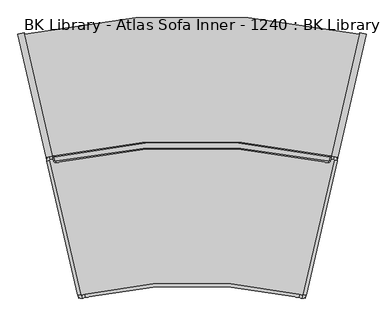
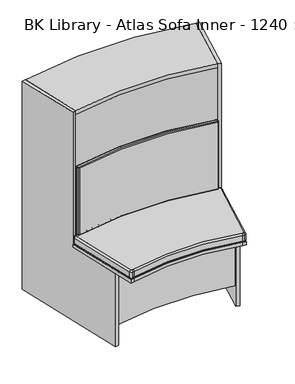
"""IFC4 building model written with IfcOpenShell, lengths in millimetres: furniture geometry, BK Library - Atlas Sofa Inner - 1240 : BK Library - Atlas Sofa Inner - 1240."""

from ifc_helpers import new_model, si_unit, point, frame, frame_2d, origin, place, context, project, spatial, polyline, circle_curve, ellipse_curve, trimmed, segment, composite_curve, outline, extrude, source, transform, mapped, element, save
from ifc_brep_helpers import plane_surface, cylinder_surface, revolved_surface, advanced_brep


def bk_library_atlas_sofa_inner_1240_bk_library_atlas_sofa_inner_c92ac835(model_context):
    return source(origin(), model_context, "Body", "SolidModel", [
        advanced_brep(
        [(-387.5289282, -41.0616278, 912.6999998), (-386.337373, -41.8193482, 912.6999998), (386.322412, -41.8102681, 912.6999998), (387.5138106, -41.053138, 912.6999998), (389.7114211, -31.2769641, 912.6999998), (388.9577264, -30.0825885, 912.6999998), (-388.967965, -30.0849192, 912.6999998), (-389.7217875, -31.2786982, 912.6999998), (-386.337373, -41.8193482, 512.6999998), (-387.5289282, -41.0616278, 512.6999998), (-389.7217875, -31.2786982, 512.6999998), (-388.967965, -30.0849192, 512.6999998), (388.9577264, -30.0825885, 512.6999998), (389.7114211, -31.2769641, 512.6999998), (387.5138106, -41.053138, 512.6999998), (386.322412, -41.8102681, 512.6999998), (-391.4320751, -41.9365244, 908.6999998), (-393.6249345, -32.1535948, 908.6999998), (-393.6249345, -32.1535948, 516.6999998), (-391.4320751, -41.9365244, 516.6999998), (-385.4742994, -45.7251264, 908.6999998), (-385.4742994, -45.7251264, 516.6999998), (385.4594302, -45.7160667, 908.6999998), (385.4594302, -45.7160667, 516.6999998), (391.416423, -41.9304159, 908.6999998), (391.416423, -41.9304159, 516.6999998), (393.6140335, -32.1542421, 908.6999998), (393.6140335, -32.1542421, 516.6999998), (-389.8558218, -26.1846999, 908.6999998), (389.8455598, -26.1823639, 908.6999998), (389.8455598, -26.1823639, 516.6999998), (-389.8558218, -26.1846999, 516.6999998)],
        [
            (0, 1, circle_curve(frame((-386.5531414, -40.8429036, 912.6999998), z_axis=(0.0, 0.0, 1.0), x_axis=(-0.9757867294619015, -0.21872416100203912, 0.0)), 1.0)),
            (1, 2, circle_curve(frame((0.0130662, -1790.2207372, 912.6999998), z_axis=(0.0, 0.0, -1.0), x_axis=(-0.21576840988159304, 0.9764445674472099, 0.0)), 1790.579258)),
            (2, 3, circle_curve(frame((386.5381575, -40.8338185, 912.6999998), z_axis=(0.0, 0.0, 1.0), x_axis=(-0.21574546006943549, -0.9764496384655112, 0.0)), 1.0)),
            (3, 4),
            (4, 5, circle_curve(frame((388.735768, -31.0576446, 912.6999998), z_axis=(0.0, 0.0, 1.0), x_axis=(0.9756530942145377, -0.21931949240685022, 0.0)), 1.0)),
            (5, 6, circle_curve(frame((0.0, -1738.7617261, 912.6999998), z_axis=(0.0, 0.0, 1.0), x_axis=(0.2219583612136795, 0.9750561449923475, 0.0)), 1752.3905125)),
            (6, 7, circle_curve(frame((-388.7460008, -31.059974, 912.6999998), z_axis=(0.0, 0.0, 1.0), x_axis=(-0.22196420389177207, 0.9750548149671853, 0.0)), 1.0)),
            (7, 0),
            (8, 9, circle_curve(frame((-386.5531414, -40.8429036, 512.6999998), z_axis=(0.0, 0.0, -1.0), x_axis=(-0.9757867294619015, -0.21872416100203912, 0.0)), 1.0)),
            (9, 10),
            (10, 11, circle_curve(frame((-388.7460008, -31.059974, 512.6999998), z_axis=(0.0, 0.0, -1.0), x_axis=(-0.22196420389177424, 0.9750548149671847, 0.0)), 1.0)),
            (11, 12, circle_curve(frame((0.0, -1738.7617261, 512.6999998), z_axis=(0.0, 0.0, -1.0), x_axis=(0.2219583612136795, 0.9750561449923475, 0.0)), 1752.3905125)),
            (12, 13, circle_curve(frame((388.735768, -31.0576446, 512.6999998), z_axis=(0.0, 0.0, -1.0), x_axis=(0.9756530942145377, -0.21931949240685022, 0.0)), 1.0)),
            (13, 14),
            (14, 15, circle_curve(frame((386.5381575, -40.8338185, 512.6999998), z_axis=(0.0, 0.0, -1.0), x_axis=(-0.21574546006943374, -0.9764496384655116, 0.0)), 1.0)),
            (15, 8, circle_curve(frame((0.0130662, -1790.2207372, 512.6999998), z_axis=(0.0, 0.0, 1.0), x_axis=(-0.21576840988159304, 0.9764445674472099, 0.0)), 1790.579258)),
            (16, 17),
            (17, 18),
            (18, 19),
            (19, 16),
            (20, 16, circle_curve(frame((-386.5531414, -40.8429036, 908.6999998), z_axis=(0.0, 0.0, -1.0), x_axis=(1.0, 0.0, 0.0)), 5.0)),
            (19, 21, circle_curve(frame((-386.5531414, -40.8429036, 516.6999998), z_axis=(0.0, 0.0, 1.0), x_axis=(1.0, 0.0, 0.0)), 5.0)),
            (21, 20),
            (22, 20, circle_curve(frame((0.0130662, -1790.2207372, 908.6999998), z_axis=(0.0, 0.0, 1.0), x_axis=(1.0, 0.0, 0.0)), 1786.579258)),
            (21, 23, circle_curve(frame((0.0130662, -1790.2207372, 516.6999998), z_axis=(0.0, 0.0, -1.0), x_axis=(1.0, 0.0, 0.0)), 1786.579258)),
            (23, 22),
            (24, 22, circle_curve(frame((386.5381575, -40.8338185, 908.6999998), z_axis=(0.0, 0.0, -1.0), x_axis=(1.0, 0.0, 0.0)), 5.0)),
            (23, 25, circle_curve(frame((386.5381575, -40.8338185, 516.6999998), z_axis=(0.0, 0.0, 1.0), x_axis=(1.0, 0.0, 0.0)), 5.0)),
            (25, 24),
            (26, 24),
            (25, 27),
            (27, 26),
            (28, 29, circle_curve(frame((0.0, -1738.7617261, 908.6999998), z_axis=(0.0, 0.0, -1.0), x_axis=(1.0, 0.0, 0.0)), 1756.3905125)),
            (29, 30),
            (30, 31, circle_curve(frame((0.0, -1738.7617261, 516.6999998), z_axis=(0.0, 0.0, 1.0), x_axis=(1.0, 0.0, 0.0)), 1756.3905125)),
            (31, 28),
            (17, 28, circle_curve(frame((-388.7460008, -31.059974, 908.6999998), z_axis=(0.0, 0.0, -1.0), x_axis=(1.0, 0.0, 0.0)), 5.0)),
            (31, 18, circle_curve(frame((-388.7460008, -31.059974, 516.6999998), z_axis=(0.0, 0.0, 1.0), x_axis=(1.0, 0.0, 0.0)), 5.0)),
            (29, 26, circle_curve(frame((388.735768, -31.0576446, 908.6999998), z_axis=(0.0, 0.0, -1.0), x_axis=(1.0, 0.0, 0.0)), 5.0)),
            (27, 30, circle_curve(frame((388.735768, -31.0576446, 516.6999998), z_axis=(0.0, 0.0, 1.0), x_axis=(1.0, 0.0, 0.0)), 5.0)),
            (20, 1, circle_curve(frame((-386.337373, -41.8193482, 908.6999998), z_axis=(-0.9764445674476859, -0.21576840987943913, 0.0), x_axis=(-0.21576840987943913, 0.9764445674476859, 0.0)), 4.0)),
            (0, 16, circle_curve(frame((-387.5289282, -41.0616278, 908.6999998), z_axis=(0.21872416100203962, -0.9757867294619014, 0.0), x_axis=(0.9757867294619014, 0.21872416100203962, 0.0)), 4.0)),
            (22, 2, circle_curve(frame((386.322412, -41.8102681, 908.6999998), z_axis=(-0.9764496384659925, 0.21574546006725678, 0.0), x_axis=(0.21574546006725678, 0.9764496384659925, 0.0)), 4.0)),
            (24, 3, circle_curve(frame((387.5138106, -41.053138, 908.6999998), z_axis=(-0.21931949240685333, -0.975653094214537, 0.0), x_axis=(-0.975653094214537, 0.21931949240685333, 0.0)), 4.0)),
            (26, 4, circle_curve(frame((389.7114211, -31.2769641, 908.6999998), z_axis=(-0.2193194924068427, -0.9756530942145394, 0.0), x_axis=(-0.9756530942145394, 0.2193194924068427, 0.0)), 4.0)),
            (29, 5, circle_curve(frame((388.9577264, -30.0825885, 908.6999998), z_axis=(0.9750561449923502, -0.2219583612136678, 0.0), x_axis=(-0.2219583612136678, -0.9750561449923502, 0.0)), 4.0)),
            (28, 6, circle_curve(frame((-388.967965, -30.0849192, 908.6999998), z_axis=(0.9750548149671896, 0.22196420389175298, 0.0), x_axis=(0.22196420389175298, -0.9750548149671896, 0.0)), 4.0)),
            (17, 7, circle_curve(frame((-389.7217875, -31.2786982, 908.6999998), z_axis=(-0.2187241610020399, 0.9757867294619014, 0.0), x_axis=(0.9757867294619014, 0.2187241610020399, 0.0)), 4.0)),
            (8, 21, circle_curve(frame((-386.337373, -41.8193482, 516.6999998), z_axis=(-0.9764445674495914, -0.21576840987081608, 0.0), x_axis=(-0.21576840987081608, 0.9764445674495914, 0.0)), 4.0)),
            (19, 9, circle_curve(frame((-387.5289282, -41.0616278, 516.6999998), z_axis=(0.21872416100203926, -0.9757867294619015, 0.0), x_axis=(0.9757867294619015, 0.21872416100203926, 0.0)), 4.0)),
            (15, 23, circle_curve(frame((386.322412, -41.8102681, 516.6999998), z_axis=(-0.9764496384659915, 0.2157454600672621, 0.0), x_axis=(0.2157454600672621, 0.9764496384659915, 0.0)), 4.0)),
            (14, 25, circle_curve(frame((387.5138106, -41.053138, 516.6999998), z_axis=(-0.21931949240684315, -0.9756530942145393, 0.0), x_axis=(-0.9756530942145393, 0.21931949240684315, 0.0)), 4.0)),
            (13, 27, circle_curve(frame((389.7114211, -31.2769641, 516.6999998), z_axis=(-0.21931949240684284, -0.9756530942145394, 0.0), x_axis=(-0.9756530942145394, 0.21931949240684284, 0.0)), 4.0)),
            (12, 30, circle_curve(frame((388.9577264, -30.0825885, 516.6999998), z_axis=(0.9750561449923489, -0.22195836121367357, 0.0), x_axis=(-0.22195836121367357, -0.9750561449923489, 0.0)), 4.0)),
            (11, 31, circle_curve(frame((-388.967965, -30.0849192, 516.6999998), z_axis=(0.9750548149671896, 0.22196420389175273, 0.0), x_axis=(0.22196420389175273, -0.9750548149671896, 0.0)), 4.0)),
            (10, 18, circle_curve(frame((-389.7217875, -31.2786982, 516.6999998), z_axis=(-0.21872416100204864, 0.9757867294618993, 0.0), x_axis=(0.9757867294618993, 0.21872416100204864, 0.0)), 4.0)),
        ],
        [
            plane_surface(frame((-383.7460008, -31.059974, 912.6999998), z_axis=(0.0, 0.0, 1.0), x_axis=(0.0, 1.0, 0.0))),
            plane_surface(frame((-383.7460008, -31.059974, 512.6999998), z_axis=(0.0, 0.0, -1.0), x_axis=(0.0, -1.0, 0.0))),
            plane_surface(frame((-393.6249345, -32.1535948, 912.6999998), z_axis=(-0.9757867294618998, -0.21872416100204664, 0.0), x_axis=(0.0, 0.0, -1.0))),
            cylinder_surface(frame((-386.5531414, -40.8429036, 512.6999998), z_axis=(0.0, 0.0, 1.0), x_axis=(1.0, 0.0, 0.0)), 5.0),
            revolved_surface(polyline([(1786.5923242, -1790.2207372, 516.6999998), (1786.5923242, -1790.2207372, 908.6999998)]), (0.0130662, -1790.2207372, 512.6999998), (0.0, 0.0, -1.0)),
            cylinder_surface(frame((386.5381575, -40.8338185, 512.6999998), z_axis=(0.0, 0.0, 1.0), x_axis=(1.0, 0.0, 0.0)), 5.0),
            plane_surface(frame((391.416423, -41.9304159, 912.6999998), z_axis=(0.9756530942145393, -0.2193194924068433, 0.0), x_axis=(0.0, 0.0, -1.0))),
            cylinder_surface(frame((0.0, -1738.7617261, 512.6999998), z_axis=(0.0, 0.0, 1.0), x_axis=(1.0, 0.0, 0.0)), 1756.3905125),
            cylinder_surface(frame((-388.7460008, -31.059974, 512.6999998), z_axis=(0.0, 0.0, 1.0), x_axis=(1.0, 0.0, 0.0)), 5.0),
            cylinder_surface(frame((388.735768, -31.0576446, 512.6999998), z_axis=(0.0, 0.0, 1.0), x_axis=(1.0, 0.0, 0.0)), 5.0),
            revolved_surface(trimmed(ellipse_curve(frame((-387.5289282, -41.0616278, 908.6999998), z_axis=(-0.21872416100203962, 0.9757867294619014, 0.0), x_axis=(0.9757867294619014, 0.21872416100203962, 0.0)), 4.0, 4.0), [point((-391.4320751, -41.9365244, 908.6999998))], [point((-387.5289282, -41.0616278, 912.6999998))], True, "CARTESIAN"), (-386.5531414, -40.8429036, 0.0), (0.0, 0.0, 1.0)),
            revolved_surface(trimmed(ellipse_curve(frame((-386.337373, -41.8193482, 908.6999998), z_axis=(-0.9764445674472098, -0.21576840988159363, 0.0), x_axis=(-0.21576840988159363, 0.9764445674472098, 0.0)), 4.0, 4.0), [point((-385.4742994, -45.7251264, 908.6999998))], [point((-386.337373, -41.8193482, 912.6999998))], True, "CARTESIAN"), (0.0130662, -1790.2207372, 0.0), (0.0, 0.0, -1.0)),
            revolved_surface(trimmed(ellipse_curve(frame((386.322412, -41.8102681, 908.6999998), z_axis=(-0.9764496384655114, 0.2157454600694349, 0.0), x_axis=(0.2157454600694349, 0.9764496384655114, 0.0)), 4.0, 4.0), [point((385.4594302, -45.7160667, 908.6999998))], [point((386.322412, -41.8102681, 912.6999998))], True, "CARTESIAN"), (386.5381575, -40.8338185, 0.0), (0.0, 0.0, 1.0)),
            cylinder_surface(frame((387.5138106, -41.053138, 908.6999998), z_axis=(0.2193194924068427, 0.9756530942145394, 0.0), x_axis=(-0.9756530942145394, 0.2193194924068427, 0.0)), 4.0),
            revolved_surface(trimmed(ellipse_curve(frame((389.7114211, -31.2769641, 908.6999998), z_axis=(-0.21931949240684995, -0.9756530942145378, 0.0), x_axis=(-0.9756530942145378, 0.21931949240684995, 0.0)), 4.0, 4.0), [point((393.6140335, -32.1542421, 908.6999998))], [point((389.7114211, -31.2769641, 912.6999998))], True, "CARTESIAN"), (388.735768, -31.0576446, 0.0), (0.0, 0.0, 1.0)),
            revolved_surface(trimmed(ellipse_curve(frame((388.9577264, -30.0825885, 908.6999998), z_axis=(0.9750561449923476, -0.2219583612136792, 0.0), x_axis=(-0.2219583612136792, -0.9750561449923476, 0.0)), 4.0, 4.0), [point((389.8455598, -26.1823639, 908.6999998))], [point((388.9577264, -30.0825885, 912.6999998))], True, "CARTESIAN"), (0.0, -1738.7617261, 0.0), (0.0, 0.0, 1.0)),
            revolved_surface(trimmed(ellipse_curve(frame((-388.967965, -30.0849192, 908.6999998), z_axis=(0.9750548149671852, 0.22196420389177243, 0.0), x_axis=(0.22196420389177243, -0.9750548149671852, 0.0)), 4.0, 4.0), [point((-389.8558218, -26.1846999, 908.6999998))], [point((-388.967965, -30.0849192, 912.6999998))], True, "CARTESIAN"), (-388.7460008, -31.059974, 0.0), (0.0, 0.0, 1.0)),
            cylinder_surface(frame((-389.7217875, -31.2786982, 908.6999998), z_axis=(0.218724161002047, -0.9757867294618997, 0.0), x_axis=(0.9757867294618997, 0.218724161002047, 0.0)), 4.0),
            revolved_surface(trimmed(ellipse_curve(frame((-387.5289282, -41.0616278, 516.6999998), z_axis=(-0.21872416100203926, 0.9757867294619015, 0.0), x_axis=(0.9757867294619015, 0.21872416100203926, 0.0)), 4.0, 4.0), [point((-387.5289282, -41.0616278, 512.6999998))], [point((-391.4320751, -41.9365244, 516.6999998))], True, "CARTESIAN"), (-386.5531414, -40.8429036, 1425.3999996), (0.0, 0.0, 1.0)),
            revolved_surface(trimmed(ellipse_curve(frame((-386.337373, -41.8193482, 516.6999998), z_axis=(-0.9764445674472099, -0.2157684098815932, 0.0), x_axis=(-0.2157684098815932, 0.9764445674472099, 0.0)), 4.0, 4.0), [point((-386.337373, -41.8193482, 512.6999998))], [point((-385.4742994, -45.7251264, 516.6999998))], True, "CARTESIAN"), (0.0130662, -1790.2207372, 1425.3999996), (0.0, 0.0, -1.0)),
            revolved_surface(trimmed(ellipse_curve(frame((386.322412, -41.8102681, 516.6999998), z_axis=(-0.9764496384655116, 0.2157454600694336, 0.0), x_axis=(0.2157454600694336, 0.9764496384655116, 0.0)), 4.0, 4.0), [point((386.322412, -41.8102681, 512.6999998))], [point((385.4594302, -45.7160667, 516.6999998))], True, "CARTESIAN"), (386.5381575, -40.8338185, 1425.3999996), (0.0, 0.0, 1.0)),
            cylinder_surface(frame((387.5138106, -41.053138, 516.6999998), z_axis=(0.21931949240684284, 0.9756530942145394, 0.0), x_axis=(-0.9756530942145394, 0.21931949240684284, 0.0)), 4.0),
            revolved_surface(trimmed(ellipse_curve(frame((389.7114211, -31.2769641, 516.6999998), z_axis=(-0.2193194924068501, -0.9756530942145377, 0.0), x_axis=(-0.9756530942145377, 0.2193194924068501, 0.0)), 4.0, 4.0), [point((389.7114211, -31.2769641, 512.6999998))], [point((393.6140335, -32.1542421, 516.6999998))], True, "CARTESIAN"), (388.735768, -31.0576446, 1425.3999996), (0.0, 0.0, 1.0)),
            revolved_surface(trimmed(ellipse_curve(frame((388.9577264, -30.0825885, 516.6999998), z_axis=(0.9750561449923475, -0.22195836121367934, 0.0), x_axis=(-0.22195836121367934, -0.9750561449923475, 0.0)), 4.0, 4.0), [point((388.9577264, -30.0825885, 512.6999998))], [point((389.8455598, -26.1823639, 516.6999998))], True, "CARTESIAN"), (0.0, -1738.7617261, 1425.3999996), (0.0, 0.0, 1.0)),
            revolved_surface(trimmed(ellipse_curve(frame((-388.967965, -30.0849192, 516.6999998), z_axis=(0.9750548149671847, 0.22196420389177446, 0.0), x_axis=(0.22196420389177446, -0.9750548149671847, 0.0)), 4.0, 4.0), [point((-388.967965, -30.0849192, 512.6999998))], [point((-389.8558218, -26.1846999, 516.6999998))], True, "CARTESIAN"), (-388.7460008, -31.059974, 1425.3999996), (0.0, 0.0, 1.0)),
            cylinder_surface(frame((-389.7217875, -31.2786982, 516.6999998), z_axis=(0.2187241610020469, -0.9757867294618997, 0.0), x_axis=(0.9757867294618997, 0.2187241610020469, 0.0)), 4.0),
        ],
        [
            (0, [[1, 2, 3, 4, 5, 6, 7, 8]]),
            (1, [[9, 10, 11, 12, 13, 14, 15, 16]]),
            (2, [[17, 18, 19, 20]]),
            (3, [[21, -20, 22, 23]]),
            (4, [[24, -23, 25, 26]]),
            (5, [[27, -26, 28, 29]]),
            (6, [[30, -29, 31, 32]]),
            (7, [[33, 34, 35, 36]]),
            (8, [[37, -36, 38, -18]]),
            (9, [[39, -32, 40, -34]]),
            (10, [[41, -1, 42, -21]]),
            (11, [[-41, -24, 43, -2]]),
            (12, [[-43, -27, 44, -3]]),
            (13, [[-44, -30, 45, -4]]),
            (14, [[-45, -39, 46, -5]]),
            (15, [[-46, -33, 47, -6]]),
            (16, [[-47, -37, 48, -7]]),
            (17, [[-42, -8, -48, -17]]),
            (18, [[49, -22, 50, -9]]),
            (19, [[-49, -16, 51, -25]]),
            (20, [[-51, -15, 52, -28]]),
            (21, [[-52, -14, 53, -31]]),
            (22, [[-53, -13, 54, -40]]),
            (23, [[-54, -12, 55, -35]]),
            (24, [[-55, -11, 56, -38]]),
            (25, [[-50, -19, -56, -10]]),
        ],
    ),
        advanced_brep(
        [(-314.0881267, -421.1743563, 512.6999998), (-312.8890018, -421.9240893, 512.6999998), (-304.1191415, -419.9018257, 512.6999998), (304.1191415, -419.9018257, 512.6999998), (312.8890018, -421.9240893, 512.6999998), (314.0881267, -421.1743563, 512.6999998), (402.151177, -39.2752587, 512.6999998), (401.401444, -38.0761338, 512.6999998), (392.6315837, -36.0538702, 512.6999998), (-392.6315837, -36.0538702, 512.6999998), (-401.401444, -38.0761338, 512.6999998), (-402.151177, -39.2752587, 512.6999998), (-312.8890018, -421.9240893, 462.6999998), (-314.0881267, -421.1743563, 462.6999998), (-402.151177, -39.2752587, 462.6999998), (-401.401444, -38.0761338, 462.6999998), (-392.6315837, -36.0538702, 462.6999998), (392.6315837, -36.0538702, 462.6999998), (401.401444, -38.0761338, 462.6999998), (402.151177, -39.2752587, 462.6999998), (314.0881267, -421.1743563, 462.6999998), (312.8890018, -421.9240893, 462.6999998), (304.1191415, -419.9018257, 462.6999998), (-304.1191415, -419.9018257, 462.6999998), (-310.8667382, -430.6939496, 503.6999998), (-322.857987, -423.1966199, 503.6999998), (-322.857987, -423.1966199, 471.6999998), (-310.8667382, -430.6939496, 471.6999998), (-302.0968779, -428.671686, 503.6999998), (-302.0968779, -428.671686, 471.6999998), (302.0968779, -428.671686, 503.6999998), (302.0968779, -428.671686, 471.6999998), (310.8667382, -430.6939496, 503.6999998), (310.8667382, -430.6939496, 471.6999998), (322.857987, -423.1966199, 503.6999998), (322.857987, -423.1966199, 471.6999998), (410.9210373, -41.2975223, 503.6999998), (410.9210373, -41.2975223, 471.6999998), (403.4237077, -29.3062735, 503.6999998), (403.4237077, -29.3062735, 471.6999998), (394.6538473, -27.2840099, 503.6999998), (394.6538473, -27.2840099, 471.6999998), (-394.6538473, -27.2840099, 503.6999998), (-394.6538473, -27.2840099, 471.6999998), (-403.4237077, -29.3062735, 503.6999998), (-403.4237077, -29.3062735, 471.6999998), (-410.9210373, -41.2975223, 503.6999998), (-410.9210373, -41.2975223, 471.6999998)],
        [
            (0, 1, circle_curve(frame((-313.1136978, -420.9496603, 512.6999998), z_axis=(0.0, 0.0, 1.0), x_axis=(-0.9744289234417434, -0.22469595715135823, 0.0)), 1.0)),
            (1, 2),
            (2, 3, circle_curve(frame((0.0, -1738.7617261, 512.6999998), z_axis=(0.0, 0.0, -1.0), x_axis=(-0.22469595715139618, 0.9744289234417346, 0.0)), 1353.4695746)),
            (3, 4),
            (4, 5, circle_curve(frame((313.1136978, -420.9496603, 512.6999998), z_axis=(0.0, 0.0, 1.0), x_axis=(-0.22469595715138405, -0.9744289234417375, 0.0)), 1.0)),
            (5, 6),
            (6, 7, circle_curve(frame((401.1767481, -39.0505627, 512.6999998), z_axis=(0.0, 0.0, 1.0), x_axis=(0.9744289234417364, -0.22469595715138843, 0.0)), 1.0)),
            (7, 8),
            (8, 9, circle_curve(frame((0.0, -1738.7617261, 512.6999998), z_axis=(0.0, 0.0, 1.0), x_axis=(0.22469595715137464, 0.9744289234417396, 0.0)), 1747.3905125)),
            (9, 10),
            (10, 11, circle_curve(frame((-401.1767481, -39.0505627, 512.6999998), z_axis=(0.0, 0.0, 1.0), x_axis=(-0.22469595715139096, 0.9744289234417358, 0.0)), 1.0)),
            (11, 0),
            (12, 13, circle_curve(frame((-313.1136978, -420.9496603, 462.6999998), z_axis=(0.0, 0.0, -1.0), x_axis=(-0.9744289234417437, -0.22469595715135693, 0.0)), 1.0)),
            (13, 14),
            (14, 15, circle_curve(frame((-401.1767481, -39.0505627, 462.6999998), z_axis=(0.0, 0.0, -1.0), x_axis=(-0.22469595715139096, 0.9744289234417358, 0.0)), 1.0)),
            (15, 16),
            (16, 17, circle_curve(frame((0.0, -1738.7617261, 462.6999998), z_axis=(0.0, 0.0, -1.0), x_axis=(0.22469595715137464, 0.9744289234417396, 0.0)), 1747.3905125)),
            (17, 18),
            (18, 19, circle_curve(frame((401.1767481, -39.0505627, 462.6999998), z_axis=(0.0, 0.0, -1.0), x_axis=(0.9744289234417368, -0.2246959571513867, 0.0)), 1.0)),
            (19, 20),
            (20, 21, circle_curve(frame((313.1136978, -420.9496603, 462.6999998), z_axis=(0.0, 0.0, -1.0), x_axis=(-0.22469595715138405, -0.9744289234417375, 0.0)), 1.0)),
            (21, 22),
            (22, 23, circle_curve(frame((0.0, -1738.7617261, 462.6999998), z_axis=(0.0, 0.0, 1.0), x_axis=(-0.22469595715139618, 0.9744289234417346, 0.0)), 1353.4695746)),
            (23, 12),
            (24, 25, circle_curve(frame((-313.1136978, -420.9496603, 503.6999998), z_axis=(0.0, 0.0, -1.0), x_axis=(1.0, 0.0, 0.0)), 10.0)),
            (25, 26),
            (26, 27, circle_curve(frame((-313.1136978, -420.9496603, 471.6999998), z_axis=(0.0, 0.0, 1.0), x_axis=(1.0, 0.0, 0.0)), 10.0)),
            (27, 24),
            (28, 24),
            (27, 29),
            (29, 28),
            (30, 28, circle_curve(frame((0.0, -1738.7617261, 503.6999998), z_axis=(0.0, 0.0, 1.0), x_axis=(1.0, 0.0, 0.0)), 1344.4695746)),
            (29, 31, circle_curve(frame((0.0, -1738.7617261, 471.6999998), z_axis=(0.0, 0.0, -1.0), x_axis=(1.0, 0.0, 0.0)), 1344.4695746)),
            (31, 30),
            (32, 30),
            (31, 33),
            (33, 32),
            (34, 32, circle_curve(frame((313.1136978, -420.9496603, 503.6999998), z_axis=(0.0, 0.0, -1.0), x_axis=(1.0, 0.0, 0.0)), 10.0)),
            (33, 35, circle_curve(frame((313.1136978, -420.9496603, 471.6999998), z_axis=(0.0, 0.0, 1.0), x_axis=(1.0, 0.0, 0.0)), 10.0)),
            (35, 34),
            (36, 34),
            (35, 37),
            (37, 36),
            (38, 36, circle_curve(frame((401.1767481, -39.0505627, 503.6999998), z_axis=(0.0, 0.0, -1.0), x_axis=(1.0, 0.0, 0.0)), 10.0)),
            (37, 39, circle_curve(frame((401.1767481, -39.0505627, 471.6999998), z_axis=(0.0, 0.0, 1.0), x_axis=(1.0, 0.0, 0.0)), 10.0)),
            (39, 38),
            (40, 38),
            (39, 41),
            (41, 40),
            (42, 40, circle_curve(frame((0.0, -1738.7617261, 503.6999998), z_axis=(0.0, 0.0, -1.0), x_axis=(1.0, 0.0, 0.0)), 1756.3905125)),
            (41, 43, circle_curve(frame((0.0, -1738.7617261, 471.6999998), z_axis=(0.0, 0.0, 1.0), x_axis=(1.0, 0.0, 0.0)), 1756.3905125)),
            (43, 42),
            (44, 42),
            (43, 45),
            (45, 44),
            (46, 44, circle_curve(frame((-401.1767481, -39.0505627, 503.6999998), z_axis=(0.0, 0.0, -1.0), x_axis=(1.0, 0.0, 0.0)), 10.0)),
            (45, 47, circle_curve(frame((-401.1767481, -39.0505627, 471.6999998), z_axis=(0.0, 0.0, 1.0), x_axis=(1.0, 0.0, 0.0)), 10.0)),
            (47, 46),
            (25, 46),
            (47, 26),
            (24, 1, circle_curve(frame((-312.8890018, -421.9240893, 503.6999998), z_axis=(-0.9744289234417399, -0.22469595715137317, 0.0), x_axis=(-0.22469595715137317, 0.9744289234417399, 0.0)), 9.0)),
            (0, 25, circle_curve(frame((-314.0881267, -421.1743563, 503.6999998), z_axis=(0.2246959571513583, -0.9744289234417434, 0.0), x_axis=(0.9744289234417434, 0.2246959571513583, 0.0)), 9.0)),
            (28, 2, circle_curve(frame((-304.1191415, -419.9018257, 503.6999998), z_axis=(-0.9744289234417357, -0.22469595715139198, 0.0), x_axis=(-0.22469595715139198, 0.9744289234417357, 0.0)), 9.0)),
            (30, 3, circle_curve(frame((304.1191415, -419.9018257, 503.6999998), z_axis=(-0.9744289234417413, 0.2246959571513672, 0.0), x_axis=(0.2246959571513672, 0.9744289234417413, 0.0)), 9.0)),
            (32, 4, circle_curve(frame((312.8890018, -421.9240893, 503.6999998), z_axis=(-0.9744289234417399, 0.2246959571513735, 0.0), x_axis=(0.2246959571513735, 0.9744289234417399, 0.0)), 9.0)),
            (34, 5, circle_curve(frame((314.0881267, -421.1743563, 503.6999998), z_axis=(-0.22469595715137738, -0.974428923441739, 0.0), x_axis=(-0.974428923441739, 0.22469595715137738, 0.0)), 9.0)),
            (36, 6, circle_curve(frame((402.151177, -39.2752587, 503.6999998), z_axis=(-0.22469595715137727, -0.974428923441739, 0.0), x_axis=(-0.974428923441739, 0.22469595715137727, 0.0)), 9.0)),
            (38, 7, circle_curve(frame((401.401444, -38.0761338, 503.6999998), z_axis=(0.9744289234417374, -0.22469595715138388, 0.0), x_axis=(-0.22469595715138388, -0.9744289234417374, 0.0)), 9.0)),
            (40, 8, circle_curve(frame((392.6315837, -36.0538702, 503.6999998), z_axis=(0.9744289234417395, -0.22469595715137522, 0.0), x_axis=(-0.22469595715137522, -0.9744289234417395, 0.0)), 9.0)),
            (42, 9, circle_curve(frame((-392.6315837, -36.0538702, 503.6999998), z_axis=(0.974428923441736, 0.22469595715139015, 0.0), x_axis=(0.22469595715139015, -0.974428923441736, 0.0)), 9.0)),
            (44, 10, circle_curve(frame((-401.401444, -38.0761338, 503.6999998), z_axis=(0.974428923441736, 0.2246959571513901, 0.0), x_axis=(0.2246959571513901, -0.974428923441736, 0.0)), 9.0)),
            (46, 11, circle_curve(frame((-402.151177, -39.2752587, 503.6999998), z_axis=(-0.2246959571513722, 0.9744289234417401, 0.0), x_axis=(0.9744289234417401, 0.2246959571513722, 0.0)), 9.0)),
            (12, 27, circle_curve(frame((-312.8890018, -421.9240893, 471.6999998), z_axis=(-0.9744289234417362, -0.22469595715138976, 0.0), x_axis=(-0.22469595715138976, 0.9744289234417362, 0.0)), 9.0)),
            (26, 13, circle_curve(frame((-314.0881267, -421.1743563, 471.6999998), z_axis=(0.2246959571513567, -0.9744289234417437, 0.0), x_axis=(0.9744289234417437, 0.2246959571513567, 0.0)), 9.0)),
            (23, 29, circle_curve(frame((-304.1191415, -419.9018257, 471.6999998), z_axis=(-0.9744289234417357, -0.22469595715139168, 0.0), x_axis=(-0.22469595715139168, 0.9744289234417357, 0.0)), 9.0)),
            (22, 31, circle_curve(frame((304.1191415, -419.9018257, 471.6999998), z_axis=(-0.9744289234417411, 0.22469595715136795, 0.0), x_axis=(0.22469595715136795, 0.9744289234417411, 0.0)), 9.0)),
            (21, 33, circle_curve(frame((312.8890018, -421.9240893, 471.6999998), z_axis=(-0.9744289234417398, 0.22469595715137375, 0.0), x_axis=(0.22469595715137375, 0.9744289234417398, 0.0)), 9.0)),
            (20, 35, circle_curve(frame((314.0881267, -421.1743563, 471.6999998), z_axis=(-0.22469595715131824, -0.9744289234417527, 0.0), x_axis=(-0.9744289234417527, 0.22469595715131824, 0.0)), 9.0)),
            (19, 37, circle_curve(frame((402.151177, -39.2752587, 471.6999998), z_axis=(-0.22469595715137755, -0.9744289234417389, 0.0), x_axis=(-0.9744289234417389, 0.22469595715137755, 0.0)), 9.0)),
            (18, 39, circle_curve(frame((401.401444, -38.0761338, 471.6999998), z_axis=(0.9744289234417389, -0.2246959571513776, 0.0), x_axis=(-0.2246959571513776, -0.9744289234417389, 0.0)), 9.0)),
            (17, 41, circle_curve(frame((392.6315837, -36.0538702, 471.6999998), z_axis=(0.9744289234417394, -0.2246959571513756, 0.0), x_axis=(-0.2246959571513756, -0.9744289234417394, 0.0)), 9.0)),
            (16, 43, circle_curve(frame((-392.6315837, -36.0538702, 471.6999998), z_axis=(0.974428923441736, 0.22469595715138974, 0.0), x_axis=(0.22469595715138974, -0.974428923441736, 0.0)), 9.0)),
            (15, 45, circle_curve(frame((-401.401444, -38.0761338, 471.6999998), z_axis=(0.9744289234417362, 0.2246959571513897, 0.0), x_axis=(0.2246959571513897, -0.9744289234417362, 0.0)), 9.0)),
            (14, 47, circle_curve(frame((-402.151177, -39.2752587, 471.6999998), z_axis=(-0.22469595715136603, 0.9744289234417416, 0.0), x_axis=(0.9744289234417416, 0.22469595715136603, 0.0)), 9.0)),
        ],
        [
            plane_surface(frame((-303.1136978, -420.9496603, 512.6999998), z_axis=(0.0, 0.0, 1.0), x_axis=(0.0, 1.0, 0.0))),
            plane_surface(frame((-303.1136978, -420.9496603, 462.6999998), z_axis=(0.0, 0.0, -1.0), x_axis=(0.0, -1.0, 0.0))),
            cylinder_surface(frame((-313.1136978, -420.9496603, 462.6999998), z_axis=(0.0, 0.0, 1.0), x_axis=(1.0, 0.0, 0.0)), 10.0),
            plane_surface(frame((-310.8667382, -430.6939496, 512.6999998), z_axis=(0.2246959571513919, -0.9744289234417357, 0.0), x_axis=(0.0, 0.0, -1.0))),
            revolved_surface(polyline([(1344.4695746, -1738.7617261, 471.6999998), (1344.4695746, -1738.7617261, 503.6999998)]), (0.0, -1738.7617261, 462.6999998), (0.0, 0.0, -1.0)),
            plane_surface(frame((302.0968779, -428.671686, 512.6999998), z_axis=(-0.22469595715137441, -0.9744289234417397, 0.0), x_axis=(0.0, 0.0, -1.0))),
            cylinder_surface(frame((313.1136978, -420.9496603, 462.6999998), z_axis=(0.0, 0.0, 1.0), x_axis=(1.0, 0.0, 0.0)), 10.0),
            plane_surface(frame((322.857987, -423.1966199, 512.6999998), z_axis=(0.9744289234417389, -0.22469595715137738, 0.0), x_axis=(0.0, 0.0, -1.0))),
            cylinder_surface(frame((401.1767481, -39.0505627, 462.6999998), z_axis=(0.0, 0.0, 1.0), x_axis=(1.0, 0.0, 0.0)), 10.0),
            plane_surface(frame((403.4237077, -29.3062735, 512.6999998), z_axis=(0.22469595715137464, 0.9744289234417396, 0.0), x_axis=(0.0, 0.0, -1.0))),
            cylinder_surface(frame((0.0, -1738.7617261, 462.6999998), z_axis=(0.0, 0.0, 1.0), x_axis=(1.0, 0.0, 0.0)), 1756.3905125),
            plane_surface(frame((-394.6538473, -27.2840099, 512.6999998), z_axis=(-0.22469595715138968, 0.9744289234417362, 0.0), x_axis=(0.0, 0.0, -1.0))),
            cylinder_surface(frame((-401.1767481, -39.0505627, 462.6999998), z_axis=(0.0, 0.0, 1.0), x_axis=(1.0, 0.0, 0.0)), 10.0),
            plane_surface(frame((-410.9210373, -41.2975223, 512.6999998), z_axis=(-0.974428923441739, -0.22469595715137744, 0.0), x_axis=(0.0, 0.0, -1.0))),
            revolved_surface(trimmed(ellipse_curve(frame((-314.0881267, -421.1743563, 503.6999998), z_axis=(-0.2246959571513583, 0.9744289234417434, 0.0), x_axis=(0.9744289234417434, 0.2246959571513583, 0.0)), 9.0, 9.0), [point((-322.857987, -423.1966199, 503.6999998))], [point((-314.0881267, -421.1743563, 512.6999998))], True, "CARTESIAN"), (-313.1136978, -420.9496603, 0.0), (0.0, 0.0, 1.0)),
            cylinder_surface(frame((-312.8890018, -421.9240893, 503.6999998), z_axis=(0.9744289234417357, 0.22469595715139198, 0.0), x_axis=(-0.22469595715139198, 0.9744289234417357, 0.0)), 9.0),
            revolved_surface(trimmed(ellipse_curve(frame((-304.1191415, -419.9018257, 503.6999998), z_axis=(-0.9744289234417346, -0.22469595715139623, 0.0), x_axis=(-0.22469595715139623, 0.9744289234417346, 0.0)), 9.0, 9.0), [point((-302.0968779, -428.671686, 503.6999998))], [point((-304.1191415, -419.9018257, 512.6999998))], True, "CARTESIAN"), (0.0, -1738.7617261, 0.0), (0.0, 0.0, -1.0)),
            cylinder_surface(frame((304.1191415, -419.9018257, 503.6999998), z_axis=(0.9744289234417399, -0.2246959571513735, 0.0), x_axis=(0.2246959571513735, 0.9744289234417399, 0.0)), 9.0),
            revolved_surface(trimmed(ellipse_curve(frame((312.8890018, -421.9240893, 503.6999998), z_axis=(-0.9744289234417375, 0.22469595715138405, 0.0), x_axis=(0.22469595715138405, 0.9744289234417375, 0.0)), 9.0, 9.0), [point((310.8667382, -430.6939496, 503.6999998))], [point((312.8890018, -421.9240893, 512.6999998))], True, "CARTESIAN"), (313.1136978, -420.9496603, 0.0), (0.0, 0.0, 1.0)),
            cylinder_surface(frame((314.0881267, -421.1743563, 503.6999998), z_axis=(0.22469595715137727, 0.974428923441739, 0.0), x_axis=(-0.974428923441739, 0.22469595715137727, 0.0)), 9.0),
            revolved_surface(trimmed(ellipse_curve(frame((402.151177, -39.2752587, 503.6999998), z_axis=(-0.22469595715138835, -0.9744289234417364, 0.0), x_axis=(-0.9744289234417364, 0.22469595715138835, 0.0)), 9.0, 9.0), [point((410.9210373, -41.2975223, 503.6999998))], [point((402.151177, -39.2752587, 512.6999998))], True, "CARTESIAN"), (401.1767481, -39.0505627, 0.0), (0.0, 0.0, 1.0)),
            cylinder_surface(frame((401.401444, -38.0761338, 503.6999998), z_axis=(-0.9744289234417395, 0.22469595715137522, 0.0), x_axis=(-0.22469595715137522, -0.9744289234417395, 0.0)), 9.0),
            revolved_surface(trimmed(ellipse_curve(frame((392.6315837, -36.0538702, 503.6999998), z_axis=(0.9744289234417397, -0.22469595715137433, 0.0), x_axis=(-0.22469595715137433, -0.9744289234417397, 0.0)), 9.0, 9.0), [point((394.6538473, -27.2840099, 503.6999998))], [point((392.6315837, -36.0538702, 512.6999998))], True, "CARTESIAN"), (0.0, -1738.7617261, 0.0), (0.0, 0.0, 1.0)),
            cylinder_surface(frame((-392.6315837, -36.0538702, 503.6999998), z_axis=(-0.974428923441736, -0.2246959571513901, 0.0), x_axis=(0.2246959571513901, -0.974428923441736, 0.0)), 9.0),
            revolved_surface(trimmed(ellipse_curve(frame((-401.401444, -38.0761338, 503.6999998), z_axis=(0.9744289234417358, 0.22469595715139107, 0.0), x_axis=(0.22469595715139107, -0.9744289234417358, 0.0)), 9.0, 9.0), [point((-403.4237077, -29.3062735, 503.6999998))], [point((-401.401444, -38.0761338, 512.6999998))], True, "CARTESIAN"), (-401.1767481, -39.0505627, 0.0), (0.0, 0.0, 1.0)),
            cylinder_surface(frame((-402.151177, -39.2752587, 503.6999998), z_axis=(0.22469595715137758, -0.9744289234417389, 0.0), x_axis=(0.9744289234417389, 0.22469595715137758, 0.0)), 9.0),
            revolved_surface(trimmed(ellipse_curve(frame((-314.0881267, -421.1743563, 471.6999998), z_axis=(-0.2246959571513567, 0.9744289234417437, 0.0), x_axis=(0.9744289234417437, 0.2246959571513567, 0.0)), 9.0, 9.0), [point((-314.0881267, -421.1743563, 462.6999998))], [point((-322.857987, -423.1966199, 471.6999998))], True, "CARTESIAN"), (-313.1136978, -420.9496603, 975.3999996), (0.0, 0.0, 1.0)),
            cylinder_surface(frame((-312.8890018, -421.9240893, 471.6999998), z_axis=(0.9744289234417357, 0.22469595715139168, 0.0), x_axis=(-0.22469595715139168, 0.9744289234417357, 0.0)), 9.0),
            revolved_surface(trimmed(ellipse_curve(frame((-304.1191415, -419.9018257, 471.6999998), z_axis=(-0.9744289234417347, -0.22469595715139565, 0.0), x_axis=(-0.22469595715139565, 0.9744289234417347, 0.0)), 9.0, 9.0), [point((-304.1191415, -419.9018257, 462.6999998))], [point((-302.0968779, -428.671686, 471.6999998))], True, "CARTESIAN"), (0.0, -1738.7617261, 975.3999996), (0.0, 0.0, -1.0)),
            cylinder_surface(frame((304.1191415, -419.9018257, 471.6999998), z_axis=(0.9744289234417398, -0.22469595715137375, 0.0), x_axis=(0.22469595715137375, 0.9744289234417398, 0.0)), 9.0),
            revolved_surface(trimmed(ellipse_curve(frame((312.8890018, -421.9240893, 471.6999998), z_axis=(-0.9744289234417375, 0.22469595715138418, 0.0), x_axis=(0.22469595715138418, 0.9744289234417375, 0.0)), 9.0, 9.0), [point((312.8890018, -421.9240893, 462.6999998))], [point((310.8667382, -430.6939496, 471.6999998))], True, "CARTESIAN"), (313.1136978, -420.9496603, 975.3999996), (0.0, 0.0, 1.0)),
            cylinder_surface(frame((314.0881267, -421.1743563, 471.6999998), z_axis=(0.22469595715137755, 0.9744289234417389, 0.0), x_axis=(-0.9744289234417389, 0.22469595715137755, 0.0)), 9.0),
            revolved_surface(trimmed(ellipse_curve(frame((402.151177, -39.2752587, 471.6999998), z_axis=(-0.22469595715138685, -0.9744289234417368, 0.0), x_axis=(-0.9744289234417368, 0.22469595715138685, 0.0)), 9.0, 9.0), [point((402.151177, -39.2752587, 462.6999998))], [point((410.9210373, -41.2975223, 471.6999998))], True, "CARTESIAN"), (401.1767481, -39.0505627, 975.3999996), (0.0, 0.0, 1.0)),
            cylinder_surface(frame((401.401444, -38.0761338, 471.6999998), z_axis=(-0.9744289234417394, 0.2246959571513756, 0.0), x_axis=(-0.2246959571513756, -0.9744289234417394, 0.0)), 9.0),
            revolved_surface(trimmed(ellipse_curve(frame((392.6315837, -36.0538702, 471.6999998), z_axis=(0.9744289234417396, -0.2246959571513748, 0.0), x_axis=(-0.2246959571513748, -0.9744289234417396, 0.0)), 9.0, 9.0), [point((392.6315837, -36.0538702, 462.6999998))], [point((394.6538473, -27.2840099, 471.6999998))], True, "CARTESIAN"), (0.0, -1738.7617261, 975.3999996), (0.0, 0.0, 1.0)),
            cylinder_surface(frame((-392.6315837, -36.0538702, 471.6999998), z_axis=(-0.9744289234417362, -0.2246959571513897, 0.0), x_axis=(0.2246959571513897, -0.9744289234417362, 0.0)), 9.0),
            revolved_surface(trimmed(ellipse_curve(frame((-401.401444, -38.0761338, 471.6999998), z_axis=(0.9744289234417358, 0.22469595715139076, 0.0), x_axis=(0.22469595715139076, -0.9744289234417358, 0.0)), 9.0, 9.0), [point((-401.401444, -38.0761338, 462.6999998))], [point((-403.4237077, -29.3062735, 471.6999998))], True, "CARTESIAN"), (-401.1767481, -39.0505627, 975.3999996), (0.0, 0.0, 1.0)),
            cylinder_surface(frame((-402.151177, -39.2752587, 471.6999998), z_axis=(0.22469595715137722, -0.974428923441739, 0.0), x_axis=(0.974428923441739, 0.22469595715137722, 0.0)), 9.0),
        ],
        [
            (0, [[1, 2, 3, 4, 5, 6, 7, 8, 9, 10, 11, 12]]),
            (1, [[13, 14, 15, 16, 17, 18, 19, 20, 21, 22, 23, 24]]),
            (2, [[25, 26, 27, 28]]),
            (3, [[29, -28, 30, 31]]),
            (4, [[32, -31, 33, 34]]),
            (5, [[35, -34, 36, 37]]),
            (6, [[38, -37, 39, 40]]),
            (7, [[41, -40, 42, 43]]),
            (8, [[44, -43, 45, 46]]),
            (9, [[47, -46, 48, 49]]),
            (10, [[50, -49, 51, 52]]),
            (11, [[53, -52, 54, 55]]),
            (12, [[56, -55, 57, 58]]),
            (13, [[59, -58, 60, -26]]),
            (14, [[61, -1, 62, -25]]),
            (15, [[-61, -29, 63, -2]]),
            (16, [[-63, -32, 64, -3]]),
            (17, [[-64, -35, 65, -4]]),
            (18, [[-65, -38, 66, -5]]),
            (19, [[-66, -41, 67, -6]]),
            (20, [[-67, -44, 68, -7]]),
            (21, [[-68, -47, 69, -8]]),
            (22, [[-69, -50, 70, -9]]),
            (23, [[-70, -53, 71, -10]]),
            (24, [[-71, -56, 72, -11]]),
            (25, [[-62, -12, -72, -59]]),
            (26, [[73, -27, 74, -13]]),
            (27, [[-73, -24, 75, -30]]),
            (28, [[-75, -23, 76, -33]]),
            (29, [[-76, -22, 77, -36]]),
            (30, [[-77, -21, 78, -39]]),
            (31, [[-78, -20, 79, -42]]),
            (32, [[-79, -19, 80, -45]]),
            (33, [[-80, -18, 81, -48]]),
            (34, [[-81, -17, 82, -51]]),
            (35, [[-82, -16, 83, -54]]),
            (36, [[-83, -15, 84, -57]]),
            (37, [[-74, -60, -84, -14]]),
        ],
    ),
        extrude(outline(composite_curve([segment(trimmed(circle_curve(frame_2d((0.0, -1839.5394457)), 1567.6957288), [point((-330.1528374, -307.0026592))], [point((330.1528374, -307.0026592))], False, "CARTESIAN"), True, "CONTINUOUS"), segment(polyline([(330.1528374, -307.0026592), (329.7167046, -308.8940171)]), True, "CONTINUOUS"), segment(trimmed(circle_curve(frame_2d((0.0, -1845.9266525)), 1571.9994999), [point((329.7167046, -308.8940171))], [point((-329.7167046, -308.8940171))], True, "CARTESIAN"), True, "CONTINUOUS"), segment(polyline([(-329.7167046, -308.8940171), (-330.1528374, -307.0026592)]), True, "CONTINUOUS")], self_intersect=False)), frame((0.0, 0.0, 126.2197818), z_axis=(0.0, 0.0, 1.0), x_axis=(1.0, 0.0, 0.0)), (0.0, 0.0, 1.0), 317.480218),
        extrude(outline(composite_curve([segment(polyline([(-321.0766086, -430.9218441), (-413.1679969, -31.553233), (-394.6538473, -27.2840099)]), True, "CONTINUOUS"), segment(trimmed(circle_curve(frame_2d((0.0, -1738.7617261)), 1756.3905125), [point((-394.6538473, -27.2840099))], [point((394.6538473, -27.2840099))], False, "CARTESIAN"), True, "CONTINUOUS"), segment(polyline([(394.6538473, -27.2840099), (413.1679969, -31.553233), (321.0970208, -430.8333237), (302.2990252, -426.4986478)]), True, "CONTINUOUS"), segment(trimmed(circle_curve(frame_2d((0.2021473, -1736.5886879)), 1344.4695746), [point((302.2990252, -426.4986478))], [point((-301.8947306, -426.4986478))], True, "CARTESIAN"), True, "CONTINUOUS"), segment(polyline([(-301.8947306, -426.4986478), (-321.0766086, -430.9218441)]), True, "CONTINUOUS")], self_intersect=False)), frame((0.0, 0.0, 443.6999998), z_axis=(0.0, 0.0, 1.0), x_axis=(1.0, 0.0, 0.0)), (0.0, 0.0, 1.0), 19.0),
        advanced_brep(
        [(394.6538473, -27.2840099, 1213.6999998), (-394.6538473, -27.2840099, 1213.6999998), (-394.6538473, -27.2840099, 533.6999998), (-394.6538473, -27.2840099, 443.6999998), (394.6538473, -27.2840099, 443.6999998), (394.6538473, -27.2840099, 533.6999998), (399.7512272, -5.1784301, 1213.6999998), (-399.4805708, -6.3521738, 1213.6999998), (-399.4805708, -6.3521738, 151.0998985), (399.7512272, -5.1784301, 151.0998985), (394.6538473, -27.2840099, 151.0998985), (-394.6538473, -27.2840099, 151.0998985)],
        [
            (0, 1, circle_curve(frame((0.0, -1738.7617261, 1213.6999998), z_axis=(0.0, 0.0, 1.0), x_axis=(1.0, 0.0, 0.0)), 1756.3905125)),
            (1, 2),
            (2, 3),
            (3, 4, circle_curve(frame((0.0, -1738.7617261, 443.6999998), z_axis=(0.0, 0.0, -1.0), x_axis=(1.0, 0.0, 0.0)), 1756.3905125)),
            (4, 5),
            (5, 0),
            (6, 7, circle_curve(frame((3.2355727, -2116.8001966, 1213.6999998), z_axis=(0.0, 0.0, 1.0), x_axis=(1.0, 0.0, 0.0)), 2148.52767)),
            (7, 1),
            (0, 6),
            (8, 9, circle_curve(frame((3.2355727, -2116.8001966, 151.0998985), z_axis=(0.0, 0.0, -1.0), x_axis=(1.0, 0.0, 0.0)), 2148.52767)),
            (9, 10),
            (10, 11, circle_curve(frame((0.0, -1738.7617261, 151.0998985), z_axis=(0.0, 0.0, 1.0), x_axis=(1.0, 0.0, 0.0)), 1756.3905125)),
            (11, 8),
            (7, 8),
            (11, 3),
            (9, 6),
            (4, 10),
        ],
        [
            revolved_surface(polyline([(1756.3905125, -1738.7617261, 1213.6999998), (1756.3905125, -1738.7617261, 443.6999998)]), (0.0, -1738.7617261, 443.6999998), (0.0, 0.0, 1.0)),
            plane_surface(frame((-326.7956683, -321.5615447, 1213.6999998), z_axis=(0.0, 0.0, 1.0000000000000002), x_axis=(0.2246959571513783, -0.9744289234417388, 0.0))),
            plane_surface(frame((-326.7956683, -321.5615447, 151.0998985), z_axis=(0.0, 0.0, -1.0000000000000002), x_axis=(-0.2246959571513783, 0.9744289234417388, 0.0))),
            plane_surface(frame((-399.4805708, -6.3521738, 1213.6999998), z_axis=(-0.9744289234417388, -0.2246959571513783, 0.0), x_axis=(0.0, 0.0, -1.0))),
            plane_surface(frame((327.6944521, -317.663829, 1213.6999998), z_axis=(0.9744289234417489, -0.22469595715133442, 0.0), x_axis=(0.0, 0.0, -1.0))),
            cylinder_surface(frame((3.2355727, -2116.8001966, 151.0998985), z_axis=(0.0, 0.0, 1.0), x_axis=(1.0, 0.0, 0.0)), 2148.52767),
            revolved_surface(polyline([(1756.3905125, -1738.7617261, 443.6999998), (1756.3905125, -1738.7617261, 151.0998985)]), (0.0, -1738.7617261, 0.0), (0.0, 0.0, 1.0)),
        ],
        [
            (0, [[1, 2, 3, 4, 5, 6]]),
            (1, [[7, 8, -1, 9]]),
            (2, [[10, 11, 12, 13]]),
            (3, [[14, -13, 15, -3, -2, -8]]),
            (4, [[16, -9, -6, -5, 17, -11]]),
            (5, [[-7, -16, -10, -14]]),
            (6, [[-12, -17, -4, -15]]),
        ],
    ),
        extrude(outline(composite_curve([segment(trimmed(circle_curve(frame_2d((0.0, -1777.8812307)), 2148.52767), [point((-474.1962162, 317.663829))], [point((474.1962162, 317.663829))], False, "CARTESIAN"), True, "CONTINUOUS"), segment(polyline([(474.1962162, 317.663829), (394.6538473, -27.2840099)]), True, "CONTINUOUS"), segment(trimmed(circle_curve(frame_2d((0.0, -1738.7617261)), 1756.3905125), [point((394.6538473, -27.2840099))], [point((-394.6538473, -27.2840099))], True, "CARTESIAN"), True, "CONTINUOUS"), segment(polyline([(-394.6538473, -27.2840099), (-474.1962162, 317.663829)]), True, "CONTINUOUS")], self_intersect=False)), frame((0.0, 0.0, 1213.6999998), z_axis=(0.0, 0.0, 1.0), x_axis=(1.0, 0.0, 0.0)), (0.0, 0.0, 1.0), 24.0),
        extrude(outline(polyline([(1224.0, 0.0), (1224.0, -659.9999999), (794.0, -659.9999999), (794.0, -357.9999999), (0.0, -357.9999999), (0.0, 0.0), (1224.0, 0.0)])), frame((-493.6091495, 317.2923215, 1237.6999998), z_axis=(0.9744289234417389, 0.22469595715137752, 0.0), x_axis=(0.0, 0.0, -1.0)), (0.0, 0.0, 1.0), 19.0),
        extrude(outline(polyline([(1224.0, 0.0), (1224.0, -659.9999999), (0.0, -659.9999999), (0.0, -302.0), (794.0, -302.0), (794.0, 0.0), (1224.0, 0.0)])), frame((345.3098178, -325.8307679, 1237.6999998), z_axis=(-0.9744289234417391, 0.2246959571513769, 0.0), x_axis=(0.0, 0.0, -1.0)), (0.0, 0.0, 1.0), 19.0),
        advanced_brep(
        [(-403.1922937, 9.7442892, 876.1999998), (-398.6983746, -9.7442892, 876.1999998), (398.6983746, -9.7442892, 876.1999998), (403.1922937, 9.7442892, 876.1999998), (-403.1922937, 9.7442892, 161.1999998), (403.1922937, 9.7442892, 161.1999998), (398.6983746, -9.7442892, 161.1999998), (-398.6983746, -9.7442892, 161.1999998), (359.7000463, -1.6061954, 836.1999998), (359.7000463, -1.6061954, 538.6999998), (-359.7212176, -1.6103769, 538.6999998), (-359.7212176, -1.6103769, 836.1999998), (-359.7212176, -1.6103769, 498.6999998), (359.7000463, -1.6061954, 498.6999998), (359.7000463, -1.6061954, 201.1999998), (-359.7212176, -1.6103769, 201.1999998), (359.7000463, 18.8192746, 538.6999998), (359.7000463, 18.8192746, 836.1999998), (-359.7212176, 18.8151191, 836.1999998), (-359.7212176, 18.8151191, 538.6999998), (359.7000463, 18.8192746, 498.6999998), (-359.7212176, 18.8151191, 498.6999998), (-359.7212176, 18.8151191, 201.1999998), (359.7000463, 18.8192746, 201.1999998)],
        [
            (0, 1),
            (1, 2, circle_curve(frame((0.0, -1822.824997, 876.1999998), z_axis=(0.0, 0.0, -1.0), x_axis=(1.0, 0.0, 0.0)), 1856.4002927)),
            (2, 3),
            (3, 0, circle_curve(frame((0.0, -1813.8149651, 876.1999998), z_axis=(0.0, 0.0, 1.0), x_axis=(1.0, 0.0, 0.0)), 1867.6007014)),
            (4, 5, circle_curve(frame((0.0, -1813.8149651, 161.1999998), z_axis=(0.0, 0.0, -1.0), x_axis=(1.0, 0.0, 0.0)), 1867.6007014)),
            (5, 6),
            (6, 7, circle_curve(frame((0.0, -1822.824997, 161.1999998), z_axis=(0.0, 0.0, 1.0), x_axis=(1.0, 0.0, 0.0)), 1856.4002927)),
            (7, 4),
            (0, 4),
            (7, 1),
            (2, 6),
            (5, 3),
            (8, 9),
            (9, 10, circle_curve(frame((0.0, -1822.824997, 538.6999998), z_axis=(0.0, 0.0, 1.0), x_axis=(1.0, 0.0, 0.0)), 1856.4002927)),
            (10, 11),
            (11, 8, circle_curve(frame((0.0, -1822.824997, 836.1999998), z_axis=(0.0, 0.0, -1.0), x_axis=(1.0, 0.0, 0.0)), 1856.4002927)),
            (12, 13, circle_curve(frame((0.0, -1822.824997, 498.6999998), z_axis=(0.0, 0.0, -1.0), x_axis=(1.0, 0.0, 0.0)), 1856.4002927)),
            (13, 14),
            (14, 15, circle_curve(frame((0.0, -1822.824997, 201.1999998), z_axis=(0.0, 0.0, 1.0), x_axis=(1.0, 0.0, 0.0)), 1856.4002927)),
            (15, 12),
            (16, 17),
            (17, 18, circle_curve(frame((0.0, -1813.8149651, 836.1999998), z_axis=(0.0, 0.0, 1.0), x_axis=(1.0, 0.0, 0.0)), 1867.6007014)),
            (18, 19),
            (19, 16, circle_curve(frame((0.0, -1813.8149651, 538.6999998), z_axis=(0.0, 0.0, -1.0), x_axis=(1.0, 0.0, 0.0)), 1867.6007014)),
            (20, 21, circle_curve(frame((0.0, -1813.8149651, 498.6999998), z_axis=(0.0, 0.0, 1.0), x_axis=(1.0, 0.0, 0.0)), 1867.6007014)),
            (21, 22),
            (22, 23, circle_curve(frame((0.0, -1813.8149651, 201.1999998), z_axis=(0.0, 0.0, -1.0), x_axis=(1.0, 0.0, 0.0)), 1867.6007014)),
            (23, 20),
            (16, 9),
            (8, 17),
            (11, 18),
            (10, 19),
            (20, 13),
            (12, 21),
            (15, 22),
            (14, 23),
        ],
        [
            plane_surface(frame((-326.7956683, -321.5615447, 876.1999998), z_axis=(0.0, 0.0, 1.0), x_axis=(0.224695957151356, -0.9744289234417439, 0.0))),
            plane_surface(frame((-326.7956683, -321.5615447, 161.1999998), z_axis=(0.0, 0.0, -1.0), x_axis=(-0.224695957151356, 0.9744289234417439, 0.0))),
            plane_surface(frame((-403.1922937, 9.7442892, 876.1999998), z_axis=(-0.9744289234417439, -0.224695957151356, 0.0), x_axis=(0.0, 0.0, -1.0))),
            plane_surface(frame((398.6983746, -9.7442892, 876.1999998), z_axis=(0.974428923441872, -0.22469595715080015, 0.0), x_axis=(0.0, 0.0, -1.0))),
            revolved_surface(polyline([(1856.4002927, -1822.824997, 161.1999998), (1856.4002927, -1822.824997, 876.1999998)]), (0.0, -1822.824997, 161.1999998), (0.0, 0.0, -1.0)),
            cylinder_surface(frame((0.0, -1813.8149651, 161.1999998), z_axis=(0.0, 0.0, 1.0), x_axis=(1.0, 0.0, 0.0)), 1867.6007014),
            plane_surface(frame((359.7000463, -114.4923923, 538.6999998), z_axis=(-1.0, 0.0, 0.0), x_axis=(0.0, 1.0, 0.0))),
            plane_surface(frame((359.7000463, -114.4923923, 836.1999998), z_axis=(0.0, 0.0, -1.0), x_axis=(0.0, 1.0, 0.0))),
            plane_surface(frame((-359.7212176, -114.4923923, 836.1999998), z_axis=(1.0, 0.0, 0.0), x_axis=(0.0, 1.0, 0.0))),
            plane_surface(frame((-359.7212176, -114.4923923, 538.6999998), z_axis=(0.0, 0.0, 1.0), x_axis=(0.0, 1.0, 0.0))),
            plane_surface(frame((359.7000463, -114.4923923, 498.6999998), z_axis=(0.0, 0.0, -1.0), x_axis=(0.0, 1.0, 0.0))),
            plane_surface(frame((-359.7212176, -114.4923923, 498.6999998), z_axis=(1.0, 0.0, 0.0), x_axis=(0.0, 1.0, 0.0))),
            plane_surface(frame((-359.7212176, -114.4923923, 201.1999998), z_axis=(0.0, 0.0, 1.0), x_axis=(0.0, 1.0, 0.0))),
            plane_surface(frame((359.7000463, -114.4923923, 201.1999998), z_axis=(-1.0, 0.0, 0.0), x_axis=(0.0, 1.0, 0.0))),
        ],
        [
            (0, [[1, 2, 3, 4]]),
            (1, [[5, 6, 7, 8]]),
            (2, [[-1, 9, -8, 10]]),
            (3, [[-3, 11, -6, 12]]),
            (4, [[-2, -10, -7, -11], [13, 14, 15, 16], [17, 18, 19, 20]]),
            (5, [[-4, -12, -5, -9], [21, 22, 23, 24], [25, 26, 27, 28]]),
            (6, [[29, -13, 30, -21]]),
            (7, [[-30, -16, 31, -22]]),
            (8, [[-31, -15, 32, -23]]),
            (9, [[-29, -24, -32, -14]]),
            (10, [[33, -17, 34, -25]]),
            (11, [[-34, -20, 35, -26]]),
            (12, [[-35, -19, 36, -27]]),
            (13, [[-33, -28, -36, -18]]),
        ],
    ),
        extrude(outline(composite_curve([segment(trimmed(circle_curve(frame_2d((0.0, -1777.8812307)), 2148.52767), [point((-474.1962162, 317.663829))], [point((474.1962162, 317.663829))], False, "CARTESIAN"), True, "CONTINUOUS"), segment(polyline([(474.1962162, 317.663829), (407.6853202, 29.2289965)]), True, "CONTINUOUS"), segment(trimmed(circle_curve(frame_2d((0.0, -1798.2835703)), 1872.4341116), [point((407.6853202, 29.2289965))], [point((-407.6853202, 29.2289965))], True, "CARTESIAN"), True, "CONTINUOUS"), segment(polyline([(-407.6853202, 29.2289965), (-474.1962162, 317.663829)]), True, "CONTINUOUS")], self_intersect=False)), frame((0.0, 0.0, 171.6999998), z_axis=(0.0, 0.0, 1.0), x_axis=(1.0, 0.0, 0.0)), (0.0, 0.0, 1.0), 22.0),
        extrude(outline(composite_curve([segment(trimmed(circle_curve(frame_2d((0.0, -1777.8812307)), 2148.52767), [point((-474.1962162, 317.663829))], [point((474.1962162, 317.663829))], False, "CARTESIAN"), True, "CONTINUOUS"), segment(polyline([(474.1962162, 317.663829), (407.6853202, 29.2289965)]), True, "CONTINUOUS"), segment(trimmed(circle_curve(frame_2d((0.0, -1798.2835703)), 1872.4341116), [point((407.6853202, 29.2289965))], [point((-407.6853202, 29.2289965))], True, "CARTESIAN"), True, "CONTINUOUS"), segment(polyline([(-407.6853202, 29.2289965), (-474.1962162, 317.663829)]), True, "CONTINUOUS")], self_intersect=False)), frame((0.0, 0.0, 491.6999998), z_axis=(0.0, 0.0, 1.0), x_axis=(1.0, 0.0, 0.0)), (0.0, 0.0, 1.0), 22.0),
        extrude(outline(composite_curve([segment(trimmed(circle_curve(frame_2d((0.0, -1777.8812307)), 2148.52767), [point((-474.1962162, 317.663829))], [point((474.1962162, 317.663829))], False, "CARTESIAN"), True, "CONTINUOUS"), segment(polyline([(474.1962162, 317.663829), (407.6853202, 29.2289965)]), True, "CONTINUOUS"), segment(trimmed(circle_curve(frame_2d((0.0, -1798.2835703)), 1872.4341116), [point((407.6853202, 29.2289965))], [point((-407.6853202, 29.2289965))], True, "CARTESIAN"), True, "CONTINUOUS"), segment(polyline([(-407.6853202, 29.2289965), (-474.1962162, 317.663829)]), True, "CONTINUOUS")], self_intersect=False)), frame((0.0, 0.0, 811.6999998), z_axis=(0.0, 0.0, 1.0), x_axis=(1.0, 0.0, 0.0)), (0.0, 0.0, 1.0), 22.0),
        extrude(outline(composite_curve([segment(trimmed(circle_curve(frame_2d((0.0, -1776.6858327)), 1864.3585062), [point((-410.605951, 41.8947656))], [point((410.605951, 41.8947656))], False, "CARTESIAN"), True, "CONTINUOUS"), segment(polyline([(410.605951, 41.8947656), (407.6853202, 29.2289965)]), True, "CONTINUOUS"), segment(trimmed(circle_curve(frame_2d((0.0, -1798.2835703)), 1872.4341116), [point((407.6853202, 29.2289965))], [point((-407.6853202, 29.2289965))], True, "CARTESIAN"), True, "CONTINUOUS"), segment(polyline([(-407.6853202, 29.2289965), (-410.605951, 41.8947656)]), True, "CONTINUOUS")], self_intersect=False)), frame((0.0, 0.0, 193.6999998), z_axis=(0.0, 0.0, 1.0), x_axis=(1.0, 0.0, 0.0)), (0.0, 0.0, 1.0), 20.0),
        extrude(outline(composite_curve([segment(trimmed(circle_curve(frame_2d((0.0, -1776.6858327)), 1864.3585062), [point((-410.605951, 41.8947656))], [point((410.605951, 41.8947656))], False, "CARTESIAN"), True, "CONTINUOUS"), segment(polyline([(410.605951, 41.8947656), (407.6853202, 29.2289965)]), True, "CONTINUOUS"), segment(trimmed(circle_curve(frame_2d((0.0, -1798.2835703)), 1872.4341116), [point((407.6853202, 29.2289965))], [point((-407.6853202, 29.2289965))], True, "CARTESIAN"), True, "CONTINUOUS"), segment(polyline([(-407.6853202, 29.2289965), (-410.605951, 41.8947656)]), True, "CONTINUOUS")], self_intersect=False)), frame((0.0, 0.0, 513.6999998), z_axis=(0.0, 0.0, 1.0), x_axis=(1.0, 0.0, 0.0)), (0.0, 0.0, 1.0), 20.0),
    ])


if __name__ == "__main__":
    model = new_model("IFC4")
    model_context = context("Model", 3, world=origin())
    ifc_project = project(units=[si_unit("LENGTHUNIT", "METRE", prefix="MILLI")], contexts=[model_context])
    site = spatial("IfcSite", under=ifc_project)
    building = spatial("IfcBuilding", under=site)
    placement = place(None, origin())
    bk_library_atlas_sofa_inner_1240_bk_library_atlas_sofa_inner_shape = bk_library_atlas_sofa_inner_1240_bk_library_atlas_sofa_inner_c92ac835(model_context)
    element("IfcFurniture", 1, ObjectType="BK Library - Atlas Sofa Inner - 1240 : BK Library - Atlas Sofa Inner - 1240", at=placement, inside=building, context=model_context, shape_type="MappedRepresentation", body=[
        mapped(bk_library_atlas_sofa_inner_1240_bk_library_atlas_sofa_inner_shape, transform((0.0, 0.0, 0.0), x_axis=(1.0, 0.0, 0.0), y_axis=(0.0, 1.0, 0.0), z_axis=(0.0, 0.0, 1.0))),
    ])
    save(model, "model.ifc")
